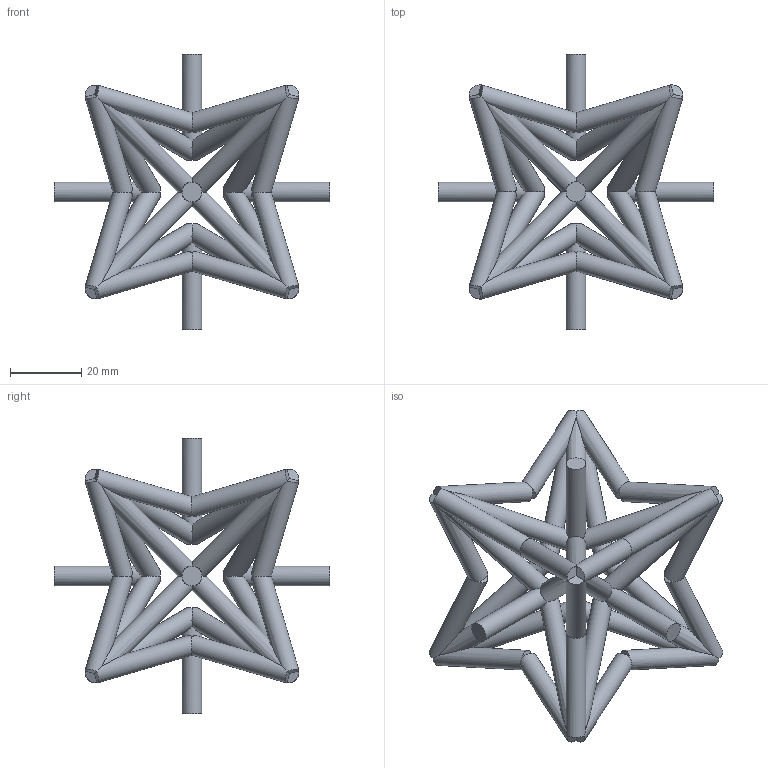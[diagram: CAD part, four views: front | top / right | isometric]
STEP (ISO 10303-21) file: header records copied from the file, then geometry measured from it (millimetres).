
FILE_DESCRIPTION(('Open CASCADE Model'),'2;1');
FILE_NAME('Open CASCADE Shape Model','2026-11-01T13:39:03',('Author'),( 'Open CASCADE'),'Open CASCADE STEP processor 7.8','Open CASCADE 7.8' ,'Unknown');
FILE_SCHEMA(('AUTOMOTIVE_DESIGN { 1 0 10303 214 1 1 1 1 }'));
Length unit declared in the file: millimetre
Products named in the file (1): Open CASCADE STEP translator 7.8 1
Bounding box: 77.1 x 77.1 x 77.1 mm (x, y, z)
Volume: 38280.4 mm3; surface area: 25418.1 mm2
Topology: 1 solids, 1 shells, 132 faces, 540 edges, 364 vertices
Faces by surface type: plane 78, cylinder 54
Full cylindrical faces by diameter (mm): 5.582 x54
Entity records: 16352 total; most frequent: CARTESIAN_POINT 6977, DIRECTION 1544, ORIENTED_EDGE 1080, PCURVE 1080, DEFINITIONAL_REPRESENTATION 1080, B_SPLINE_CURVE_WITH_KNOTS 768, AXIS2_PLACEMENT_3D 559, EDGE_CURVE 540
